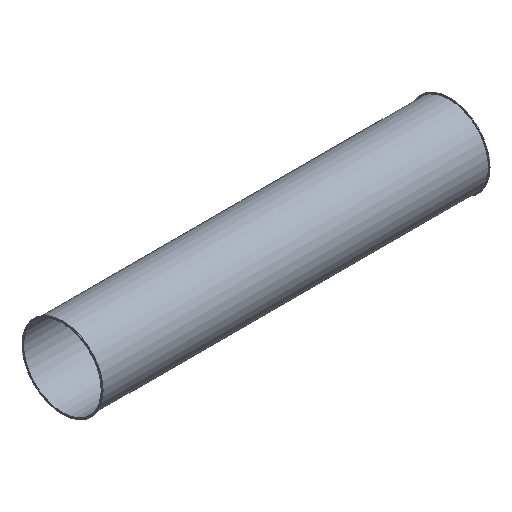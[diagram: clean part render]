
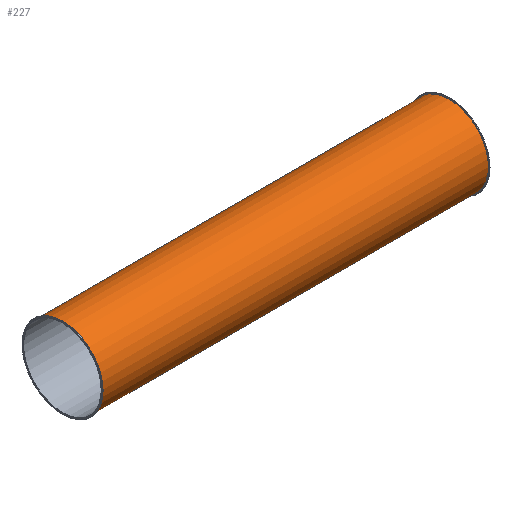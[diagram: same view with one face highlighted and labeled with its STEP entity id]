
A CAD part, isometric view. The second image highlights one B-rep face of the part: STEP entity #227.
In plain terms, the highlighted cylindrical face has radius 201 mm (diameter 402 mm), a full revolution.
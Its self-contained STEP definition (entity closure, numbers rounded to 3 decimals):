
#112=CARTESIAN_POINT('',(-31.741,2.915,0.0));
#113=VERTEX_POINT('',#112);
#114=CARTESIAN_POINT('',(-31.741,203.915,0.0));
#115=DIRECTION('',(-1.0,0.0,0.0));
#116=DIRECTION('',(0.0,-1.0,0.0));
#117=AXIS2_PLACEMENT_3D('',#114,#115,#116);
#118=CIRCLE('',#117,201.0);
#119=EDGE_CURVE('',#113,#113,#118,.T.);
#204=CARTESIAN_POINT('',(1950.259,2.915,0.0));
#205=VERTEX_POINT('',#204);
#206=CARTESIAN_POINT('',(1950.259,203.915,0.0));
#207=DIRECTION('',(-1.0,0.0,0.0));
#208=DIRECTION('',(0.0,-1.0,0.0));
#209=AXIS2_PLACEMENT_3D('',#206,#207,#208);
#210=CIRCLE('',#209,201.);
#211=EDGE_CURVE('',#205,#205,#210,.T.);
#216=CARTESIAN_POINT('',(959.259,203.915,0.0));
#217=DIRECTION('',(-1.0,0.,0.0));
#218=DIRECTION('',(0.0,-1.0,0.0));
#219=AXIS2_PLACEMENT_3D('',#216,#217,#218);
#220=CYLINDRICAL_SURFACE('',#219,201.);
#221=ORIENTED_EDGE('',*,*,#119,.F.);
#222=EDGE_LOOP('',(#221));
#223=FACE_OUTER_BOUND('',#222,.T.);
#224=ORIENTED_EDGE('',*,*,#211,.T.);
#225=EDGE_LOOP('',(#224));
#226=FACE_BOUND('',#225,.T.);
#227=ADVANCED_FACE('',(#223,#226),#220,.T.);
